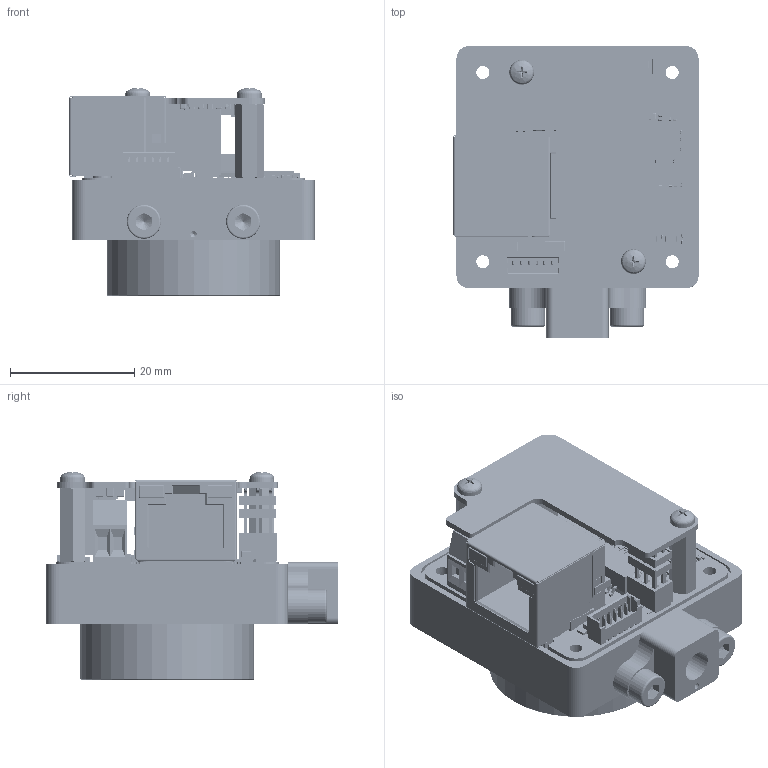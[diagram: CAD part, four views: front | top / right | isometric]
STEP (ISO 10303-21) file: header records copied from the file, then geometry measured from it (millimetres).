
FILE_DESCRIPTION(/* description */ (''),/* implementation_level */ '2;1');
FILE_NAME(/* name */ 'KSM_308-24-02-00-00_ZB C-MountKamera_GigE-4SB_PoE add-on.stp',/* time_stamp */ '2024-09-20T14:02:38+02:00',/* author */ ('khw'),/* organization */ ('TIS/ Germany'),/* preprocessor_version */ 'ST-DEVELOPER v20',/* originating_system */ 'Autodesk Inventor 2025',/* authorisation */ '520025 mm^3');
FILE_SCHEMA (('AUTOMOTIVE_DESIGN { 1 0 10303 214 3 1 1 }'));
Products named in the file (4): KSM_308-24-02-00-00_ZB C-MountKamera_GigE-4SB_PoE add-on; 2_308-24-02-00-00_ZB C-MountKamera_GigE-4SB_PoE add-on; TripodAdapter 14-20-UNC; Zylinderschraube M3x6
Assembly tree (4 placements, depth 2):
  KSM_308-24-02-00-00_ZB C-MountKamera_GigE-4SB_PoE add-on
    2_308-24-02-00-00_ZB C-MountKamera_GigE-4SB_PoE add-on
    TripodAdapter 14-20-UNC
    Zylinderschraube M3x6  x2
Bounding box: 39.49 x 47 x 33.59 mm (x, y, z)
Volume: 17122 mm3; surface area: 19104.6 mm2
Topology: 12 solids, 19 shells, 12918 faces, 30548 edges, 16458 vertices
Faces by surface type: cylinder 5168, plane 5133, sphere 1258, torus 1258, cone 67, bspline 34
Full cylindrical faces by diameter (mm): 0.3 x1, 0.5 x6, 0.739 x1, 1 x1, 1.05 x2, 1.2 x2, 1.567 x4, 1.783 x2, 2 x4, 2.032 x2, 2.1 x6, 2.3 x2, 2.459 x8, 3 x2, 3.2 x2, 4.978 x1, 5.5 x2, 24.536 x1, 28 x1
Entity records: 367306 total; most frequent: DIRECTION 65405, CARTESIAN_POINT 60325, ORIENTED_EDGE 58494, EDGE_CURVE 29247, AXIS2_PLACEMENT_3D 23448, LINE 18509, VECTOR 18509, VERTEX_POINT 16434
